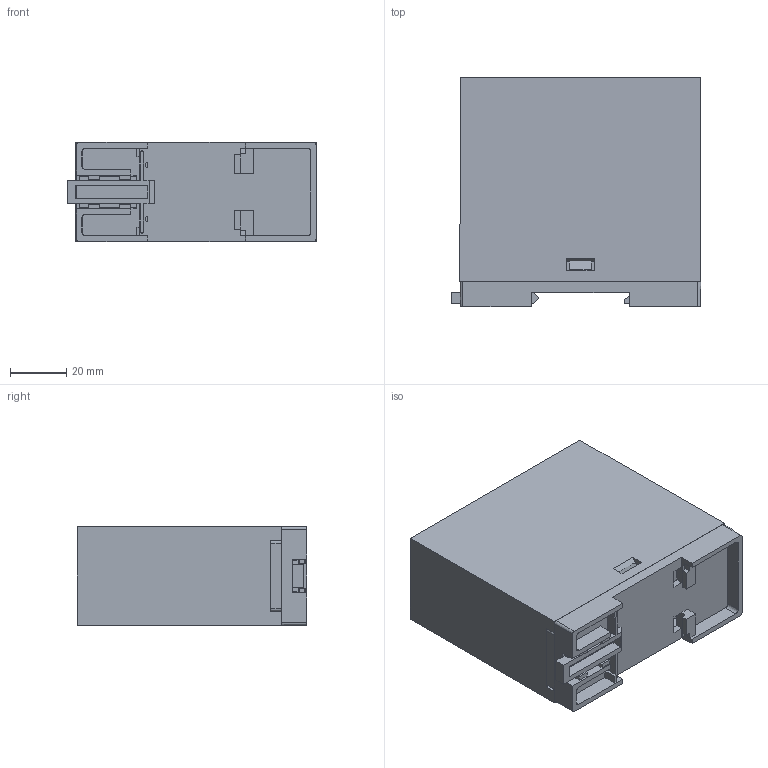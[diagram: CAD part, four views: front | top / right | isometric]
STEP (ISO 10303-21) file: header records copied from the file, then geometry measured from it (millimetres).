
FILE_DESCRIPTION (( 'STEP AP203' ), '1' );
FILE_NAME ('RT-130.STEP', '2020-06-05T11:10:04', ( '' ), ( '' ), 'SwSTEP 2.0', 'SolidWorks 2020', '' );
FILE_SCHEMA (( 'CONFIG_CONTROL_DESIGN' ));
Length unit declared in the file: millimetre
Products named in the file (7): RT-130; RT-102_Pcb_Sample; RT-130_Dik_Pcb_Sample; RT-130-P-1; A-79; RT-102-P3; RT-130-Panel
Assembly tree (7 placements, depth 2):
  RT-130
    RT-130-P-1
    RT-130-Panel
    RT-102-P3
    RT-102_Pcb_Sample
    RT-130_Dik_Pcb_Sample  x2
    A-79
Bounding box: 88.87 x 81.7 x 35.45 mm (x, y, z)
Volume: 70934.6 mm3; surface area: 81705 mm2
Topology: 7 solids, 7 shells, 356 faces, 1002 edges, 660 vertices
Faces by surface type: plane 303, cylinder 33, cone 18, bspline 2
Entity records: 12053 total; most frequent: CARTESIAN_POINT 2148, ORIENTED_EDGE 1980, DIRECTION 1772, EDGE_CURVE 990, LINE 876, VECTOR 876, VERTEX_POINT 652, AXIS2_PLACEMENT_3D 448
